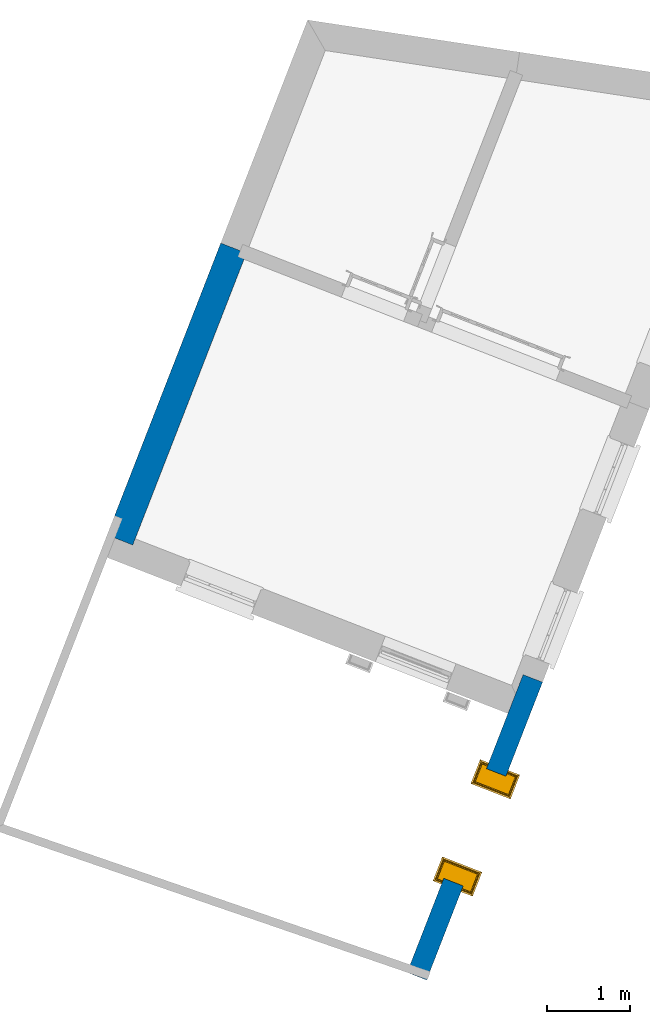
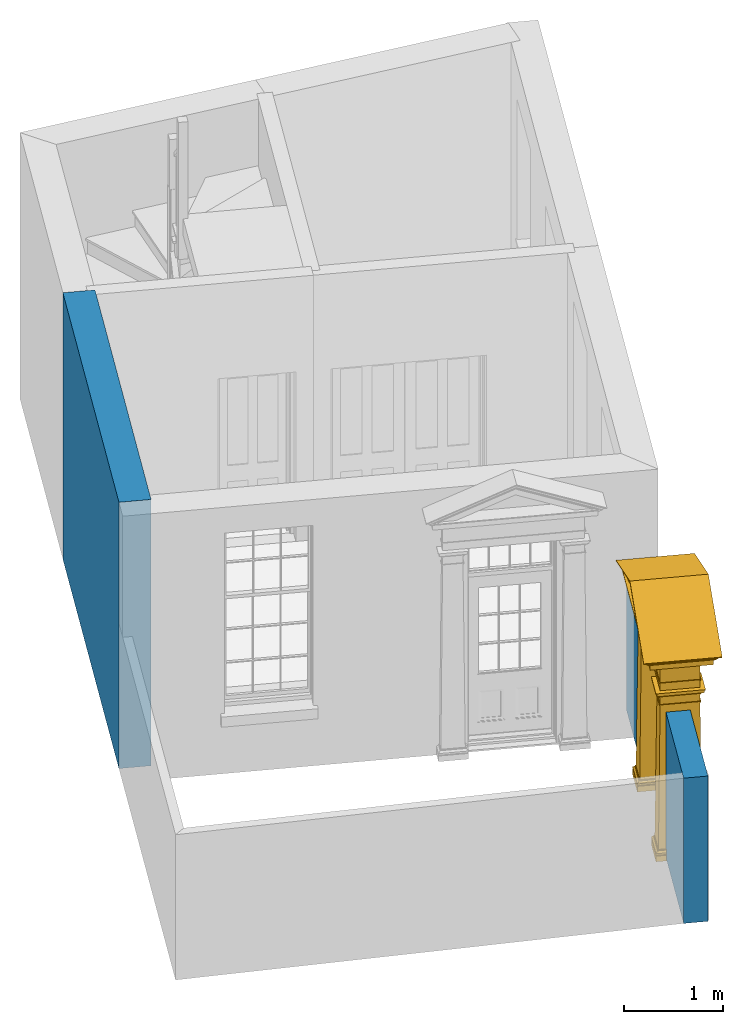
# One storey, part 3 of 7: 2 walls, 1 door, 1 opening.
"""IFC4 building model written with IfcOpenShell, lengths in metres."""

from ifc_helpers import new_model, si_unit, frame, origin, origin_with_axes, place, context, subcontext, project, spatial, polyline, outline, extrude, faceted_brep, source, transform, mapped, material, layer, layer_set, layer_usage, type_object, type_shapes, element, fill, save


model = new_model("IFC4")

# Units and contexts
model_context = context("Model", 3, world=origin_with_axes())
body_context = subcontext(model_context, "Body", "Model", "MODEL_VIEW")
ifc_project = project(units=[si_unit("PLANEANGLEUNIT", "RADIAN"), si_unit("MASSUNIT", "GRAM", prefix="KILO"), si_unit("FORCEUNIT", "NEWTON", prefix="KILO"), si_unit("LENGTHUNIT", "METRE"), si_unit("AREAUNIT", "SQUARE_METRE"), si_unit("VOLUMEUNIT", "CUBIC_METRE")], contexts=[model_context, model_context])

# Sites, building, storey
site_1_placement = place(None, origin_with_axes())
site_1 = spatial("IfcSite", under=ifc_project, at=site_1_placement, Name="Tamar")
site_2_placement = place(site_1_placement, origin_with_axes())
site_2 = spatial("IfcSite", under=site_1, at=site_2_placement, Name="Site plot-10", CompositionType="ELEMENT")
building_placement = place(None, origin_with_axes())
building = spatial("IfcBuilding", under=site_2, at=building_placement, Name="Building plot-10", CompositionType="ELEMENT")
storey_placement = place(None, frame((0.0, 0.0, 26.8), z_axis=(0.0, 0.0, 1.0), x_axis=(1.0, 0.0, 0.0)))
storey = spatial("IfcBuildingStorey", under=building, at=storey_placement, Name="plot-10 0", CompositionType="ELEMENT", Elevation=26.8)

# Wall
ifc_material_1 = material(Name="Masonry")
ifc_layer_1 = layer(ifc_material_1, 0.33, ventilated=False)
ifc_layer_set_1 = layer_set([ifc_layer_1], Name="party_0.08_0.25")
ifc_layer_usage_1 = layer_usage(ifc_layer_set_1, "AXIS2", "POSITIVE", -0.25)
wall_type_1 = type_object("IfcWallType", Name="party_0.08_0.25", PredefinedType="SOLIDWALL", material=ifc_layer_set_1)
wall_1_placement = place(storey_placement, frame((231.466263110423, 320.160002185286, 0.0), z_axis=(0.0, 0.0, 1.0), x_axis=(-0.362808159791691, -0.931863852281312, 0.0)))
element("IfcWall", 1, at=wall_1_placement, inside=storey, type_object=wall_type_1, material=ifc_layer_usage_1, Name="party", context=body_context, shape_type="SweptSolid", body=[
    extrude(outline(polyline([(-2.21737824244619e-15, 0.0800000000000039), (2.37352689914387e-16, -0.250000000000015), (3.7530230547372, -0.250000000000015), (3.7530230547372, 0.0800000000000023), (-2.21737824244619e-15, 0.0800000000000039)])), origin_with_axes(), (0.0, 0.0, 1.0), 3.3),
])

# Wall, opening, door
ifc_material_2 = material(Name="Masonry")
ifc_layer_2 = layer(ifc_material_2, 0.25, ventilated=False)
ifc_layer_set_2 = layer_set([ifc_layer_2], Name="fence_0_0.25")
ifc_layer_usage_2 = layer_usage(ifc_layer_set_2, "AXIS2", "POSITIVE", -0.25)
wall_type_2 = type_object("IfcWallType", Name="fence_0_0.25", PredefinedType="SOLIDWALL", material=ifc_layer_set_2)
wall_2_placement = place(storey_placement, frame((233.556450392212, 311.747208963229, 0.0), z_axis=(0.0, 0.0, 1.0), x_axis=(0.362808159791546, 0.931863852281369, 0.0)))
wall_2 = element("IfcWall", 2, at=wall_2_placement, inside=storey, type_object=wall_type_2, material=ifc_layer_usage_2, Name="fence", context=body_context, shape_type="SweptSolid", body=[
    extrude(outline(polyline([(-0.250000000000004, 1.23540917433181e-14), (-0.24999999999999, -0.249999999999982), (3.57821784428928, -0.250000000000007), (3.57821784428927, -1.27123834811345e-14), (-0.250000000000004, 1.23540917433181e-14)])), origin_with_axes(), (0.0, 0.0, 1.0), 1.8),
])
opening_placement = place(wall_2_placement, frame((0.959108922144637, 0.0, -0.0100000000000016)))
opening = element("IfcOpeningElement", 3, at=opening_placement, cuts=wall_2, Name="My Opening", ObjectType="Opening", context=body_context, shape_type="SweptSolid", body=[
    extrude(outline(polyline([(0.0, -0.270000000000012), (1.40999999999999, -0.269999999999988), (1.41, 1.02000000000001), (1.40998324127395e-14, 1.01999999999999), (0.0, -0.270000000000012)])), origin_with_axes(), (0.0, 0.0, 1.0), 1.81),
])
door_type = type_object("IfcDoorType", Name="gate", OperationType="SINGLE_SWING_LEFT", PredefinedType="NOTDEFINED")
shared_shape = source(origin(), body_context, "Body", "Brep", [
    faceted_brep([(1.565, 0.25, 2.5), (1.565, -0.21, 2.5), (1.565, -0.21, 2.49), (1.565, 0.25, 2.49), (1.445, -0.09, 2.01), (1.215, -0.09, 2.01), (1.215, -0.09, 2.0), (1.445, -0.09, 2.0), (-0.035, -0.09, 2.180001), (-0.025, -0.08, 2.180001), (-0.025, 0.25, 2.180001), (-0.035, 0.25, 2.180001), (-0.025, -0.08, 2.170001), (-0.035, -0.09, 2.170001), (-0.035, 0.25, 2.170001), (-0.025, 0.25, 2.170001), (1.445, -0.09, 2.180001), (1.435, -0.08, 2.180001), (-0.025, -0.08, 2.37), (-0.025, 0.25, 2.37), (1.435, -0.08, 2.170001), (1.445, -0.09, 2.170001), (-0.025, -0.08, 2.08), (-0.025, 0.25, 2.08), (1.445, 0.25, 2.180001), (1.435, 0.25, 2.180001), (1.435, -0.08, 2.37), (-0.035, -0.09, 2.37), (-0.035, 0.25, 2.37), (1.435, 0.25, 2.37), (1.445, 0.25, 2.170001), (1.435, 0.25, 2.170001), (0.235, -0.08, 2.08), (0.235, 0.25, 2.08), (1.175, 0.25, 2.08), (1.175, -0.08, 2.08), (-0.075, 0.25, 2.08), (-0.075, -0.13, 2.08), (1.445, -0.09, 2.37), (-0.035, -0.09, 2.380001), (-0.035, 0.25, 2.380001), (1.445, 0.25, 2.37), (1.435, -0.08, 2.08), (1.435, 0.25, 2.08), (0.235, 0.38, 2.07), (0.235, 0.38, 2.08), (0.235, 0.33, 2.08), (0.235, -0.13, 2.08), (-0.075, 0.25, 2.07), (-0.075, -0.13, 2.07), (1.445, -0.09, 2.380001), (-0.045, -0.1, 2.39), (-0.045, 0.25, 2.39), (1.455, 0.25, 2.39), (1.455, -0.1, 2.39), (1.445, 0.25, 2.380001), (1.485, -0.13, 2.08), (1.485, 0.25, 2.08), (0.235, -0.13, 2.07), (1.175, -0.13, 2.08), (-0.065, 0.25, 2.07), (-0.065, -0.12, 2.07), (-0.055, -0.11, 2.39), (-0.055, 0.25, 2.39), (1.465, 0.25, 2.39), (1.465, -0.11, 2.39), (1.485, 0.25, 2.07), (1.485, -0.13, 2.07), (0.225, 0.25, 2.07), (0.235, 0.25, 2.07), (0.225, -0.12, 2.07), (-0.065, 0.25, 2.04), (-0.065, -0.12, 2.04), (1.475, 0.25, 2.07), (1.475, -0.12, 2.07), (1.175, 0.25, 2.07), (1.185, 0.25, 2.07), (1.185, -0.12, 2.07), (1.175, -0.13, 2.07), (1.175, 0.33, 2.08), (1.175, 0.38, 2.07), (-0.055, -0.11, 2.4), (-0.055, 0.25, 2.4), (1.465, 0.25, 2.4), (1.465, -0.11, 2.4), (0.225, 0.25, 2.04), (0.225, -0.12, 2.04), (-0.055, 0.25, 2.04), (-0.055, -0.11, 2.04), (1.475, 0.25, 2.04), (1.475, -0.12, 2.04), (1.185, 0.25, 2.04), (1.195, 0.25, 2.04), (1.195, -0.11, 2.04), (1.185, -0.12, 2.04), (-0.065, -0.12, 2.4), (-0.065, 0.25, 2.4), (-0.085, -0.14, 2.42), (-0.085, 0.25, 2.42), (-0.085, -0.14, 2.43), (-0.085, 0.25, 2.43), (1.495, 0.25, 2.43), (1.495, -0.14, 2.43), (1.495, -0.14, 2.42), (1.495, 0.25, 2.42), (1.475, 0.25, 2.4), (1.475, -0.12, 2.4), (0.215, 0.25, 2.04), (0.215, -0.11, 2.04), (-0.055, 0.25, 2.03), (-0.055, -0.11, 2.03), (0.215, 0.25, 2.03), (0.215, -0.11, 2.03), (1.465, 0.25, 2.04), (1.465, -0.11, 2.04), (1.195, 0.25, 2.03), (1.195, -0.11, 2.03), (1.465, 0.25, 2.03), (1.465, -0.11, 2.03), (-0.145, -0.2, 2.43), (-0.145, 0.25, 2.43), (1.555, 0.25, 2.43), (1.555, -0.2, 2.43), (-0.035, 0.25, 2.01), (-0.035, -0.09, 2.01), (0.195, 0.25, 2.01), (0.195, -0.09, 2.01), (1.215, 0.25, 2.01), (1.445, 0.25, 2.01), (-0.145, -0.2, 2.49), (-0.145, 0.25, 2.49), (1.555, 0.25, 2.49), (1.555, -0.2, 2.49), (-0.035, 0.25, 2.0), (-0.035, -0.09, 2.0), (0.195, 0.25, 2.0), (0.195, -0.09, 2.0), (1.215, 0.25, 2.0), (1.445, 0.25, 2.0), (-0.155, -0.21, 2.49), (-0.155, 0.25, 2.49), (-0.155, -0.21, 2.5), (-0.155, 0.25, 2.5), (-0.165, -0.22, 2.51), (-0.165, 0.25, 2.51), (1.575, 0.25, 2.51), (1.575, -0.22, 2.51), (-0.025, -0.08, 2.0), (-0.025, 0.25, 2.0), (0.185, -0.08, 2.0), (0.185, 0.25, 2.0), (-0.025, 0.25, 1.91), (-0.025, -0.08, 1.91), (0.185, 0.25, 1.91), (0.185, -0.08, 1.91), (1.225, 0.25, 2.0), (1.225, -0.08, 2.0), (1.435, -0.08, 2.0), (1.435, 0.25, 2.0), (1.435, 0.25, 1.91), (1.435, -0.08, 1.91), (1.225, 0.25, 1.91), (1.225, -0.08, 1.91), (-0.175, -0.23, 2.51), (-0.175, 0.25, 2.51), (1.585, 0.25, 2.51), (1.585, -0.23, 2.51), (-0.035, 0.25, 1.91), (-0.035, -0.09, 1.91), (0.195, -0.09, 1.91), (0.195, 0.25, 1.91), (1.445, -0.09, 1.91), (1.445, 0.25, 1.91), (1.215, -0.09, 1.91), (1.215, 0.25, 1.91), (-0.175, -0.23, 2.52), (-0.175, 0.25, 2.52), (1.585, 0.25, 2.52), (1.585, -0.23, 2.52), (-0.035, 0.25, 1.9), (-0.035, -0.09, 1.9), (0.195, 0.25, 1.9), (0.195, -0.09, 1.9), (-0.025, -0.08, 1.9), (-0.025, 0.25, 1.9), (0.185, -0.08, 1.9), (0.185, 0.25, 1.9), (-0.045, 0.25, 0.13), (-0.045, -0.1, 0.13), (0.205, 0.25, 0.13), (0.205, -0.1, 0.13), (1.445, -0.09, 1.9), (1.445, 0.25, 1.9), (1.435, -0.08, 1.9), (1.435, 0.25, 1.9), (1.455, -0.1, 0.13), (1.455, 0.25, 0.13), (1.225, 0.25, 1.9), (1.205, 0.25, 0.13), (1.205, -0.1, 0.13), (1.225, -0.08, 1.9), (1.215, -0.09, 1.9), (1.215, 0.25, 1.9), (-0.185, -0.24, 2.526), (-0.185, 0.25, 2.526), (-0.150858, -0.23, 2.52), (1.560858, -0.23, 2.52), (-0.195, -0.25, 2.551001), (-0.195, 0.25, 2.551001), (-0.223, 0.25, 2.561001), (-0.223, -0.278, 2.561001), (1.633, -0.278, 2.561001), (1.605, -0.25, 2.551001), (1.605, 0.25, 2.551001), (1.633, 0.25, 2.561001), (1.595, 0.25, 2.526), (1.595, -0.24, 2.526), (-0.055, 0.25, 0.13), (-0.055, -0.11, 0.13), (0.215, 0.25, 0.13), (0.215, -0.11, 0.13), (1.465, -0.11, 0.13), (1.465, 0.25, 0.13), (1.195, 0.25, 0.13), (1.195, -0.11, 0.13), (0.705, -0.23, 2.884508), (0.705, -0.24, 2.89465), (0.705, -0.23, 2.874508), (1.486538, -0.21, 2.522499), (-0.076538, -0.21, 2.522499), (0.705, -0.25, 2.923792), (0.705, -0.278, 2.945389), (-0.223, -0.278, 2.571001), (-0.223, 0.25, 2.571001), (1.633, 0.25, 2.571001), (1.633, -0.278, 2.571001), (-0.055, 0.25, 0.12), (-0.055, -0.11, 0.12), (0.215, 0.25, 0.12), (0.215, -0.11, 0.12), (-0.075, 0.25, 0.1), (-0.075, -0.13, 0.1), (0.235, 0.25, 0.1), (0.235, -0.13, 0.1), (1.465, 0.25, 0.12), (1.465, -0.11, 0.12), (1.485, 0.25, 0.1), (1.485, -0.13, 0.1), (1.195, 0.25, 0.12), (1.175, 0.25, 0.1), (1.175, -0.13, 0.1), (1.195, -0.11, 0.12), (-0.13784, -0.22, 2.52125), (0.705, -0.22, 2.870365), (1.51068, -0.21, 2.522499), (1.54784, -0.22, 2.52125), (1.316733, -0.2, 2.523749), (0.093267, -0.2, 2.523749), (-0.10068, -0.21, 2.522499), (0.705, -0.278, 2.955389), (0.705, 0.25, 2.955389), (-0.075, 0.25, 0.08), (-0.075, -0.13, 0.08), (0.235, 0.25, 0.08), (0.235, -0.13, 0.08), (1.485, -0.13, 0.08), (1.485, 0.25, 0.08), (1.175, 0.25, 0.08), (1.175, -0.13, 0.08), (0.705, -0.21, 2.856223), (0.705, -0.21, 2.846222), (1.272495, -0.14, 2.53125), (0.137505, -0.14, 2.53125), (-0.06352, -0.2, 2.523749), (1.47352, -0.2, 2.523749), (-0.065, 0.25, 0.07), (-0.065, -0.12, 0.07), (0.225, 0.25, 0.07), (0.225, -0.12, 0.07), (1.475, 0.25, 0.07), (1.475, -0.12, 0.07), (1.185, 0.25, 0.07), (1.185, -0.12, 0.07), (0.705, -0.2, 2.842082), (1.298626, -0.14, 2.53125), (1.214197, -0.12, 2.533749), (0.195803, -0.12, 2.533749), (0.111374, -0.14, 2.53125), (0.705, -0.2, 2.777137), (-0.075, 0.25, 0.07), (-0.075, -0.13, 0.07), (0.235, -0.13, 0.07), (0.235, 0.25, 0.07), (0.235, -0.13, 0.0), (-0.075, -0.13, 0.0), (-0.075, 0.25, 0.0), (0.235, 0.25, 0.0), (1.485, -0.13, 0.07), (1.485, 0.25, 0.07), (1.485, -0.13, 0.0), (1.175, -0.13, 0.0), (1.175, 0.25, 0.0), (1.485, 0.25, 0.0), (1.175, -0.13, 0.07), (1.175, 0.25, 0.07), (0.705, -0.14, 2.766314), (0.705, -0.14, 2.777137), (0.705, -0.12, 2.744666), (1.185048, -0.11, 2.535), (0.224952, -0.11, 2.535), (0.705, -0.11, 2.744666), (1.211179, -0.11, 2.535), (1.12675, -0.09, 2.537501), (0.28325, -0.09, 2.537501), (0.198821, -0.11, 2.535), (0.705, -0.11, 2.733843), (1.152881, -0.09, 2.537501), (1.18203, -0.1, 2.536251), (0.286268, -0.08, 2.538751), (1.123732, -0.08, 2.538751), (0.22797, -0.1, 2.536251), (0.257119, -0.09, 2.537501), (0.705, -0.1, 2.733843), (0.705, -0.09, 2.712194), (0.705, -0.09, 2.723017), (0.705, -0.08, 2.712194), (-0.155, 0.46, 2.5), (-0.155, 0.46, 2.49), (-0.035, 0.34, 2.01), (0.195, 0.34, 2.01), (0.195, 0.34, 2.0), (-0.035, 0.34, 2.0), (1.445, 0.34, 2.180001), (1.435, 0.33, 2.180001), (1.435, 0.33, 2.170001), (1.445, 0.34, 2.170001), (-0.035, 0.34, 2.180001), (-0.025, 0.33, 2.180001), (1.435, 0.33, 2.37), (-0.025, 0.33, 2.170001), (-0.035, 0.34, 2.170001), (1.435, 0.33, 2.08), (-0.025, 0.33, 2.37), (1.445, 0.34, 2.37), (1.485, 0.38, 2.08), (-0.035, 0.34, 2.37), (1.445, 0.34, 2.380001), (-0.025, 0.33, 2.08), (1.175, 0.38, 2.08), (1.485, 0.38, 2.07), (-0.035, 0.34, 2.380001), (1.455, 0.35, 2.39), (-0.045, 0.35, 2.39), (-0.075, 0.38, 2.08), (1.475, 0.37, 2.07), (1.465, 0.36, 2.39), (-0.055, 0.36, 2.39), (-0.075, 0.38, 2.07), (1.185, 0.37, 2.07), (1.475, 0.37, 2.04), (-0.065, 0.37, 2.07), (0.225, 0.37, 2.07), (1.465, 0.36, 2.4), (-0.055, 0.36, 2.4), (1.185, 0.37, 2.04), (1.465, 0.36, 2.04), (-0.065, 0.37, 2.04), (0.215, 0.36, 2.04), (0.225, 0.37, 2.04), (1.475, 0.37, 2.4), (1.495, 0.39, 2.42), (1.495, 0.39, 2.43), (-0.085, 0.39, 2.43), (-0.085, 0.39, 2.42), (-0.065, 0.37, 2.4), (1.195, 0.36, 2.04), (1.465, 0.36, 2.03), (1.195, 0.36, 2.03), (-0.055, 0.36, 2.04), (0.215, 0.36, 2.03), (-0.055, 0.36, 2.03), (1.555, 0.45, 2.43), (-0.145, 0.45, 2.43), (1.445, 0.34, 2.01), (1.215, 0.34, 2.01), (1.555, 0.45, 2.49), (-0.145, 0.45, 2.49), (1.445, 0.34, 2.0), (1.215, 0.34, 2.0), (1.565, 0.46, 2.49), (1.565, 0.46, 2.5), (1.575, 0.47, 2.51), (-0.165, 0.47, 2.51), (1.435, 0.33, 2.0), (1.225, 0.33, 2.0), (1.435, 0.33, 1.91), (1.225, 0.33, 1.91), (0.185, 0.33, 2.0), (-0.025, 0.33, 2.0), (-0.025, 0.33, 1.91), (0.185, 0.33, 1.91), (1.585, 0.48, 2.51), (-0.175, 0.48, 2.51), (1.445, 0.34, 1.91), (1.215, 0.34, 1.91), (-0.035, 0.34, 1.91), (0.195, 0.34, 1.91), (1.585, 0.48, 2.52), (-0.175, 0.48, 2.52), (1.445, 0.34, 1.9), (1.215, 0.34, 1.9), (1.435, 0.33, 1.9), (1.225, 0.33, 1.9), (1.455, 0.35, 0.13), (1.205, 0.35, 0.13), (-0.035, 0.34, 1.9), (-0.025, 0.33, 1.9), (-0.045, 0.35, 0.13), (0.205, 0.35, 0.13), (0.185, 0.33, 1.9), (0.195, 0.34, 1.9), (1.595, 0.49, 2.526), (1.560858, 0.48, 2.52), (-0.150858, 0.48, 2.52), (1.605, 0.5, 2.551001), (1.633, 0.528, 2.561001), (-0.223, 0.528, 2.561001), (-0.195, 0.5, 2.551001), (-0.185, 0.49, 2.526), (1.465, 0.36, 0.13), (1.195, 0.36, 0.13), (-0.055, 0.36, 0.13), (0.215, 0.36, 0.13), (0.705, 0.48, 2.884508), (0.705, 0.49, 2.89465), (0.705, 0.48, 2.874508), (-0.076538, 0.46, 2.522499), (1.486538, 0.46, 2.522499), (0.705, 0.5, 2.923792), (0.705, 0.528, 2.945389), (1.633, 0.528, 2.571001), (-0.223, 0.528, 2.571001), (1.465, 0.36, 0.12), (1.195, 0.36, 0.12), (1.485, 0.38, 0.1), (1.175, 0.38, 0.1), (-0.055, 0.36, 0.12), (-0.075, 0.38, 0.1), (0.235, 0.38, 0.1), (0.215, 0.36, 0.12), (1.54784, 0.47, 2.52125), (0.705, 0.47, 2.870365), (-0.10068, 0.46, 2.522499), (-0.13784, 0.47, 2.52125), (0.093267, 0.45, 2.523749), (1.316733, 0.45, 2.523749), (1.51068, 0.46, 2.522499), (0.705, 0.528, 2.955389), (1.485, 0.38, 0.08), (1.175, 0.38, 0.08), (-0.075, 0.38, 0.08), (0.235, 0.38, 0.08), (0.705, 0.46, 2.856223), (0.705, 0.46, 2.846222), (0.137505, 0.39, 2.53125), (1.272495, 0.39, 2.53125), (1.47352, 0.45, 2.523749), (-0.06352, 0.45, 2.523749), (1.475, 0.37, 0.07), (1.185, 0.37, 0.07), (-0.065, 0.37, 0.07), (0.225, 0.37, 0.07), (0.705, 0.45, 2.842082), (0.111374, 0.39, 2.53125), (0.195803, 0.37, 2.533749), (1.214197, 0.37, 2.533749), (1.298626, 0.39, 2.53125), (0.705, 0.45, 2.777137), (1.485, 0.38, 0.07), (1.175, 0.38, 0.07), (1.175, 0.38, 0.0), (1.485, 0.38, 0.0), (-0.075, 0.38, 0.07), (-0.075, 0.38, 0.0), (0.235, 0.38, 0.0), (0.235, 0.38, 0.07), (0.705, 0.39, 2.766314), (0.705, 0.39, 2.777137), (0.705, 0.37, 2.744666), (0.224952, 0.36, 2.535), (1.185048, 0.36, 2.535), (0.705, 0.36, 2.744666), (0.198821, 0.36, 2.535), (0.28325, 0.34, 2.537501), (1.12675, 0.34, 2.537501), (1.211179, 0.36, 2.535), (0.705, 0.36, 2.733843), (0.257119, 0.34, 2.537501), (0.22797, 0.35, 2.536251), (1.123732, 0.33, 2.538751), (0.286268, 0.33, 2.538751), (1.18203, 0.35, 2.536251), (1.152881, 0.34, 2.537501), (0.705, 0.35, 2.733843), (0.705, 0.34, 2.723017), (0.705, 0.34, 2.712194), (0.705, 0.33, 2.712194)], [[[0, 1, 2, 3]], [[4, 5, 6, 7]], [[8, 9, 10, 11]], [[12, 13, 14, 15]], [[13, 8, 11, 14]], [[9, 8, 16, 17]], [[9, 18, 19, 10]], [[13, 12, 20, 21]], [[22, 12, 15, 23]], [[8, 13, 21, 16]], [[17, 16, 24, 25]], [[18, 9, 17, 26]], [[27, 28, 19, 18]], [[26, 17, 25, 29]], [[16, 21, 30, 24]], [[21, 20, 31, 30]], [[32, 33, 34, 35]], [[12, 32, 35, 20]], [[12, 22, 32]], [[22, 23, 36, 37]], [[27, 18, 26, 38]], [[39, 40, 28, 27]], [[41, 38, 26, 29]], [[20, 42, 43, 31]], [[44, 45, 46]], [[42, 20, 35]], [[37, 47, 32, 22]], [[36, 48, 49, 37]], [[39, 27, 38, 50]], [[51, 52, 40, 39]], [[53, 54, 50, 55]], [[55, 50, 38, 41]], [[43, 42, 56, 57]], [[32, 47, 58]], [[59, 56, 42, 35]], [[58, 47, 37, 49]], [[48, 60, 61, 49]], [[51, 39, 50, 54]], [[62, 63, 52, 51]], [[64, 65, 54, 53]], [[66, 57, 56, 67]], [[68, 69, 58, 70]], [[60, 71, 72, 61]], [[73, 66, 67, 74]], [[75, 76, 77, 78]], [[34, 79, 80, 75]], [[59, 78, 67, 56]], [[61, 70, 58, 49]], [[62, 51, 54, 65]], [[81, 82, 63, 62]], [[83, 84, 65, 64]], [[85, 68, 70, 86]], [[71, 87, 88, 72]], [[86, 70, 61, 72]], [[77, 74, 67, 78]], [[89, 73, 74, 90]], [[91, 92, 93, 94]], [[76, 91, 94, 77]], [[81, 62, 65, 84]], [[95, 96, 82, 81]], [[97, 98, 96, 95]], [[99, 100, 98, 97]], [[101, 102, 103, 104]], [[105, 106, 84, 83]], [[104, 103, 106, 105]], [[107, 85, 86, 108]], [[87, 109, 110, 88]], [[88, 108, 86, 72]], [[111, 107, 108, 112]], [[77, 94, 90, 74]], [[113, 89, 90, 114]], [[92, 115, 116, 93]], [[93, 114, 90, 94]], [[117, 113, 114, 118]], [[95, 81, 84, 106]], [[97, 95, 106, 103]], [[119, 120, 100, 99]], [[99, 97, 103, 102]], [[121, 122, 102, 101]], [[109, 123, 124, 110]], [[112, 108, 88, 110]], [[125, 111, 112, 126]], [[115, 127, 5, 116]], [[93, 116, 118, 114]], [[128, 117, 118, 4]], [[129, 130, 120, 119]], [[119, 99, 102, 122]], [[131, 132, 122, 121]], [[123, 133, 134, 124]], [[110, 124, 126, 112]], [[135, 125, 126, 136]], [[127, 137, 6, 5]], [[4, 118, 116, 5]], [[138, 128, 4, 7]], [[139, 140, 130, 129]], [[129, 119, 122, 132]], [[141, 142, 140, 139]], [[143, 144, 142, 141]], [[145, 146, 1, 0]], [[3, 2, 132, 131]], [[147, 134, 133, 148]], [[126, 124, 134, 136]], [[135, 136, 149, 150]], [[148, 151, 152, 147]], [[153, 150, 149, 154]], [[6, 137, 155, 156]], [[7, 157, 158, 138]], [[159, 158, 157, 160]], [[155, 161, 162, 156]], [[139, 129, 132, 2]], [[141, 139, 2, 1]], [[163, 164, 144, 143]], [[143, 141, 1, 146]], [[165, 166, 146, 145]], [[147, 149, 136, 134]], [[167, 168, 152, 151]], [[147, 152, 154, 149]], [[154, 169, 170, 153]], [[156, 157, 7, 6]], [[160, 157, 156, 162]], [[171, 172, 159, 160]], [[173, 162, 161, 174]], [[175, 176, 164, 163]], [[163, 143, 146, 166]], [[177, 178, 166, 165]], [[179, 180, 168, 167]], [[154, 152, 168, 169]], [[181, 170, 169, 182]], [[183, 180, 179, 184]], [[181, 182, 185, 186]], [[184, 187, 188, 183]], [[189, 186, 185, 190]], [[160, 162, 173, 171]], [[191, 192, 172, 171]], [[191, 193, 194, 192]], [[193, 195, 196, 194]], [[197, 198, 199, 200]], [[201, 202, 197, 200]], [[174, 202, 201, 173]], [[203, 204, 176, 175]], [[175, 163, 205]], [[163, 166, 206, 205]], [[207, 208, 204, 203]], [[209, 208, 207, 210]], [[211, 212, 213, 214]], [[215, 216, 178, 177]], [[213, 212, 216, 215]], [[178, 206, 166]], [[180, 182, 169, 168]], [[183, 185, 182, 180]], [[187, 217, 218, 188]], [[183, 188, 190, 185]], [[219, 189, 190, 220]], [[201, 191, 171, 173]], [[200, 193, 191, 201]], [[195, 193, 200, 199]], [[195, 221, 222, 196]], [[198, 223, 224, 199]], [[175, 225, 226, 203]], [[225, 175, 205, 227]], [[205, 206, 228, 229]], [[203, 226, 230, 207]], [[207, 230, 231, 210]], [[232, 233, 209, 210]], [[234, 235, 211, 214]], [[231, 230, 212, 211]], [[216, 226, 225, 178]], [[212, 230, 226, 216]], [[227, 206, 178, 225]], [[217, 236, 237, 218]], [[220, 190, 188, 218]], [[238, 219, 220, 239]], [[236, 240, 241, 237]], [[242, 238, 239, 243]], [[221, 195, 199, 224]], [[244, 222, 221, 245]], [[246, 244, 245, 247]], [[248, 249, 250, 251]], [[223, 248, 251, 224]], [[227, 205, 252, 253]], [[254, 228, 206, 255]], [[256, 257, 229, 228]], [[252, 205, 229, 258]], [[231, 259, 232, 210]], [[260, 233, 232, 259]], [[234, 260, 259, 235]], [[259, 231, 211, 235]], [[253, 255, 206, 227]], [[239, 220, 218, 237]], [[261, 262, 241, 240]], [[243, 239, 237, 241]], [[263, 242, 243, 264]], [[224, 251, 245, 221]], [[251, 250, 247, 245]], [[265, 266, 246, 247]], [[249, 267, 268, 250]], [[253, 252, 258, 269]], [[270, 228, 254, 269]], [[269, 254, 255, 253]], [[256, 271, 272, 257]], [[273, 229, 257]], [[274, 256, 228]], [[269, 258, 229, 270]], [[261, 275, 276, 262]], [[264, 243, 241, 262]], [[277, 263, 264, 278]], [[250, 268, 265, 247]], [[279, 266, 265, 280]], [[267, 281, 282, 268]], [[283, 274, 228, 270]], [[284, 271, 256]], [[271, 285, 286, 272]], [[287, 257, 272]], [[270, 229, 273, 283]], [[283, 273, 257, 288]], [[288, 256, 274, 283]], [[289, 290, 276, 275]], [[262, 276, 278, 264]], [[278, 291, 292, 277]], [[293, 294, 295, 296]], [[280, 265, 268, 282]], [[297, 298, 279, 280]], [[299, 300, 301, 302]], [[303, 282, 281, 304]], [[305, 271, 284, 306]], [[306, 284, 256, 288]], [[307, 285, 271, 305]], [[285, 308, 309, 286]], [[305, 272, 286, 307]], [[288, 257, 287, 306]], [[306, 287, 272, 305]], [[289, 295, 294, 290]], [[278, 276, 290, 291]], [[296, 292, 291, 293]], [[290, 294, 293, 291]], [[280, 282, 303, 297]], [[302, 298, 297, 299]], [[299, 297, 303, 300]], [[304, 301, 300, 303]], [[310, 311, 285, 307]], [[311, 308, 285]], [[308, 312, 313, 309]], [[314, 286, 309]], [[307, 286, 314, 310]], [[315, 308, 311, 310]], [[316, 312, 308, 317]], [[318, 313, 312, 319]], [[320, 309, 313, 321]], [[310, 314, 309, 315]], [[322, 317, 308, 315]], [[323, 312, 316, 324]], [[324, 316, 317, 322]], [[323, 313, 318, 325]], [[325, 319, 312, 323]], [[325, 318, 319]], [[315, 309, 320, 322]], [[324, 321, 313, 323]], [[322, 320, 321, 324]], [[142, 326, 327, 140]], [[328, 329, 330, 331]], [[332, 333, 25, 24]], [[334, 335, 30, 31]], [[335, 332, 24, 30]], [[333, 332, 336, 337]], [[333, 338, 29, 25]], [[335, 334, 339, 340]], [[341, 334, 31, 43]], [[332, 335, 340, 336]], [[337, 336, 11, 10]], [[338, 333, 337, 342]], [[343, 41, 29, 338]], [[342, 337, 10, 19]], [[336, 340, 14, 11]], [[340, 339, 15, 14]], [[79, 34, 33, 46]], [[334, 79, 46, 339]], [[334, 341, 79]], [[341, 43, 57, 344]], [[343, 338, 342, 345]], [[346, 55, 41, 343]], [[28, 345, 342, 19]], [[339, 347, 23, 15]], [[35, 34, 75, 78]], [[33, 32, 58, 69]], [[347, 339, 46]], [[344, 348, 79, 341]], [[57, 66, 349, 344]], [[346, 343, 345, 350]], [[351, 53, 55, 346]], [[52, 352, 350, 40]], [[40, 350, 345, 28]], [[23, 347, 353, 36]], [[79, 348, 80]], [[45, 353, 347, 46]], [[80, 348, 344, 349]], [[66, 73, 354, 349]], [[351, 346, 350, 352]], [[355, 64, 53, 351]], [[63, 356, 352, 52]], [[48, 36, 353, 357]], [[76, 75, 80, 358]], [[73, 89, 359, 354]], [[60, 48, 357, 360]], [[69, 68, 361, 44]], [[46, 33, 69, 44]], [[45, 44, 357, 353]], [[354, 358, 80, 349]], [[355, 351, 352, 356]], [[362, 83, 64, 355]], [[82, 363, 356, 63]], [[91, 76, 358, 364]], [[89, 113, 365, 359]], [[364, 358, 354, 359]], [[361, 360, 357, 44]], [[71, 60, 360, 366]], [[85, 107, 367, 368]], [[68, 85, 368, 361]], [[362, 355, 356, 363]], [[369, 105, 83, 362]], [[370, 104, 105, 369]], [[371, 101, 104, 370]], [[100, 372, 373, 98]], [[96, 374, 363, 82]], [[98, 373, 374, 96]], [[92, 91, 364, 375]], [[113, 117, 376, 365]], [[365, 375, 364, 359]], [[115, 92, 375, 377]], [[361, 368, 366, 360]], [[87, 71, 366, 378]], [[107, 111, 379, 367]], [[367, 378, 366, 368]], [[109, 87, 378, 380]], [[369, 362, 363, 374]], [[370, 369, 374, 373]], [[381, 121, 101, 371]], [[371, 370, 373, 372]], [[120, 382, 372, 100]], [[117, 128, 383, 376]], [[377, 375, 365, 376]], [[127, 115, 377, 384]], [[111, 125, 329, 379]], [[367, 379, 380, 378]], [[123, 109, 380, 328]], [[385, 131, 121, 381]], [[381, 371, 372, 382]], [[130, 386, 382, 120]], [[128, 138, 387, 383]], [[376, 383, 384, 377]], [[137, 127, 384, 388]], [[125, 135, 330, 329]], [[328, 380, 379, 329]], [[133, 123, 328, 331]], [[389, 3, 131, 385]], [[385, 381, 382, 386]], [[390, 0, 3, 389]], [[391, 145, 0, 390]], [[144, 392, 326, 142]], [[140, 327, 386, 130]], [[393, 387, 138, 158]], [[384, 383, 387, 388]], [[137, 388, 394, 155]], [[158, 159, 395, 393]], [[161, 155, 394, 396]], [[330, 135, 150, 397]], [[331, 398, 148, 133]], [[151, 148, 398, 399]], [[150, 153, 400, 397]], [[389, 385, 386, 327]], [[390, 389, 327, 326]], [[401, 165, 145, 391]], [[391, 390, 326, 392]], [[164, 402, 392, 144]], [[393, 394, 388, 387]], [[172, 403, 395, 159]], [[393, 395, 396, 394]], [[396, 404, 174, 161]], [[397, 398, 331, 330]], [[399, 398, 397, 400]], [[405, 167, 151, 399]], [[406, 400, 153, 170]], [[407, 177, 165, 401]], [[401, 391, 392, 402]], [[176, 408, 402, 164]], [[192, 409, 403, 172]], [[396, 395, 403, 404]], [[202, 174, 404, 410]], [[411, 409, 192, 194]], [[202, 410, 412, 197]], [[194, 196, 413, 411]], [[198, 197, 412, 414]], [[399, 400, 406, 405]], [[415, 179, 167, 405]], [[415, 416, 184, 179]], [[416, 417, 187, 184]], [[186, 189, 418, 419]], [[420, 181, 186, 419]], [[170, 181, 420, 406]], [[421, 215, 177, 407]], [[407, 401, 422]], [[401, 402, 423, 422]], [[424, 213, 215, 421]], [[214, 213, 424, 425]], [[426, 427, 208, 209]], [[204, 428, 408, 176]], [[208, 427, 428, 204]], [[408, 423, 402]], [[409, 410, 404, 403]], [[411, 412, 410, 409]], [[196, 222, 429, 413]], [[411, 413, 414, 412]], [[223, 198, 414, 430]], [[420, 415, 405, 406]], [[419, 416, 415, 420]], [[417, 416, 419, 418]], [[417, 431, 217, 187]], [[189, 219, 432, 418]], [[407, 433, 434, 421]], [[433, 407, 422, 435]], [[422, 423, 436, 437]], [[421, 434, 438, 424]], [[424, 438, 439, 425]], [[440, 234, 214, 425]], [[233, 441, 426, 209]], [[439, 438, 427, 426]], [[428, 434, 433, 408]], [[427, 438, 434, 428]], [[435, 423, 408, 433]], [[222, 244, 442, 429]], [[430, 414, 413, 429]], [[248, 223, 430, 443]], [[244, 246, 444, 442]], [[249, 248, 443, 445]], [[431, 417, 418, 432]], [[236, 217, 431, 446]], [[240, 236, 446, 447]], [[238, 242, 448, 449]], [[219, 238, 449, 432]], [[435, 422, 450, 451]], [[452, 436, 423, 453]], [[454, 455, 437, 436]], [[450, 422, 437, 456]], [[439, 457, 440, 425]], [[260, 234, 440, 457]], [[233, 260, 457, 441]], [[457, 439, 426, 441]], [[451, 453, 423, 435]], [[443, 430, 429, 442]], [[266, 458, 444, 246]], [[445, 443, 442, 444]], [[267, 249, 445, 459]], [[432, 449, 446, 431]], [[449, 448, 447, 446]], [[460, 261, 240, 447]], [[242, 263, 461, 448]], [[451, 450, 456, 462]], [[463, 436, 452, 462]], [[462, 452, 453, 451]], [[454, 464, 465, 455]], [[466, 437, 455]], [[467, 454, 436]], [[462, 456, 437, 463]], [[266, 279, 468, 458]], [[459, 445, 444, 458]], [[281, 267, 459, 469]], [[448, 461, 460, 447]], [[275, 261, 460, 470]], [[263, 277, 471, 461]], [[472, 467, 436, 463]], [[473, 464, 454]], [[464, 474, 475, 465]], [[476, 455, 465]], [[463, 437, 466, 472]], [[472, 466, 455, 477]], [[477, 454, 467, 472]], [[298, 478, 468, 279]], [[458, 468, 469, 459]], [[469, 479, 304, 281]], [[480, 481, 302, 301]], [[470, 460, 461, 471]], [[482, 289, 275, 470]], [[483, 484, 296, 295]], [[485, 471, 277, 292]], [[486, 464, 473, 487]], [[487, 473, 454, 477]], [[488, 474, 464, 486]], [[474, 489, 490, 475]], [[486, 465, 475, 488]], [[477, 455, 476, 487]], [[487, 476, 465, 486]], [[298, 302, 481, 478]], [[469, 468, 478, 479]], [[301, 304, 479, 480]], [[478, 481, 480, 479]], [[470, 471, 485, 482]], [[295, 289, 482, 483]], [[483, 482, 485, 484]], [[292, 296, 484, 485]], [[491, 492, 474, 488]], [[492, 489, 474]], [[489, 493, 494, 490]], [[495, 475, 490]], [[488, 475, 495, 491]], [[496, 489, 492, 491]], [[497, 493, 489, 498]], [[499, 494, 493, 500]], [[501, 490, 494, 502]], [[491, 495, 490, 496]], [[503, 498, 489, 496]], [[497, 504, 505, 493]], [[504, 497, 498, 503]], [[505, 494, 499, 506]], [[506, 500, 493, 505]], [[506, 499, 500]], [[496, 490, 501, 503]], [[504, 502, 494, 505]], [[503, 501, 502, 504]], [[78, 59, 35]]]),
])
type_shapes(door_type, [shared_shape])
door_placement = place(storey_placement, frame((234.156026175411, 312.543009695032, -0.0100000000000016), z_axis=(0.0, 0.0, 1.0), x_axis=(0.511559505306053, 1.31392803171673, 0.0)))
door = element("IfcDoor", 4, at=door_placement, inside=storey, type_object=door_type, Name="house entrance gate", OverallHeight=1.81, OverallWidth=1.41, context=body_context, shape_type="MappedRepresentation", body=[
    mapped(shared_shape, transform((0.0, 0.0, 0.0), scale=1.0)),
])
fill(opening, door)

save(model, "model.ifc")
